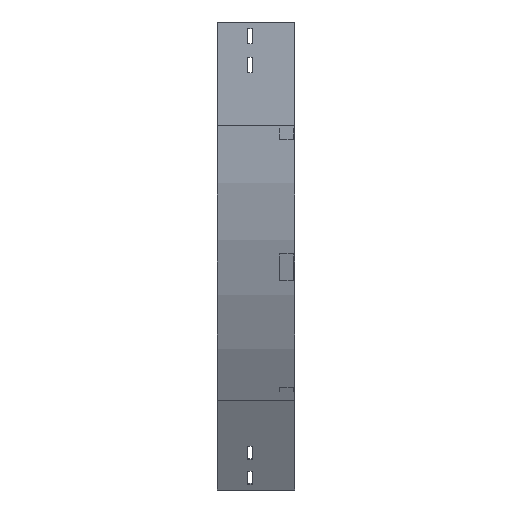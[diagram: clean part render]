
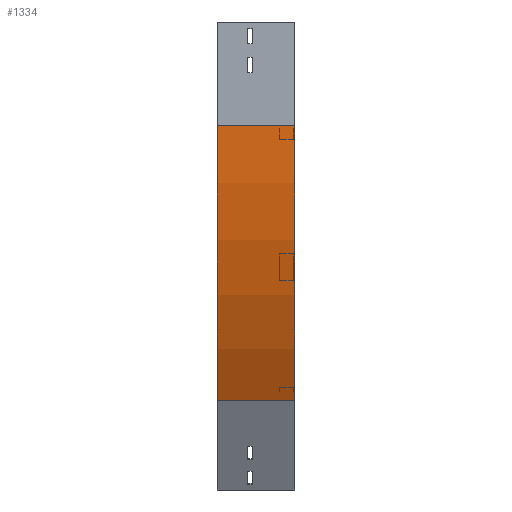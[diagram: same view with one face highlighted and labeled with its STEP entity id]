
A CAD part, left-side view. The second image highlights one B-rep face of the part: STEP entity #1334.
In plain terms, the highlighted cylindrical face has radius 800 mm (diameter 1600 mm), a partial arc.
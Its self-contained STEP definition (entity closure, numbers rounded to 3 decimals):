
#116 = VERTEX_POINT ( 'NONE', #305 ) ;
#305 = CARTESIAN_POINT ( 'NONE',  ( 0., 112.5, -150. ) ) ;
#317 = DIRECTION ( 'NONE',  ( 0., -1., 0. ) ) ;
#443 = CARTESIAN_POINT ( 'NONE',  ( 107.18, 0., -550. ) ) ;
#500 = CARTESIAN_POINT ( 'NONE',  ( 800., 0., -150. ) ) ;
#598 = CARTESIAN_POINT ( 'NONE',  ( 107.18, 112.5, -550. ) ) ;
#640 = EDGE_CURVE ( 'NONE', #2144, #3160, #1563, .T. ) ;
#864 = DIRECTION ( 'NONE',  ( -1., 0., 0. ) ) ;
#915 = EDGE_LOOP ( 'NONE', ( #3555, #2905, #1195, #2884 ) ) ;
#1195 = ORIENTED_EDGE ( 'NONE', *, *, #3210, .T. ) ;
#1277 = AXIS2_PLACEMENT_3D ( 'NONE', #2059, #3786, #864 ) ;
#1334 = ADVANCED_FACE ( 'NONE', ( #3203 ), #3185, .T. ) ;
#1469 = VERTEX_POINT ( 'NONE', #2030 ) ;
#1485 = VECTOR ( 'NONE', #317, 1000. ) ;
#1555 = AXIS2_PLACEMENT_3D ( 'NONE', #500, #1699, #2653 ) ;
#1563 = LINE ( 'NONE', #443, #2327 ) ;
#1632 = CARTESIAN_POINT ( 'NONE',  ( 107.18, 0., -550. ) ) ;
#1699 = DIRECTION ( 'NONE',  ( 0., -1., 0. ) ) ;
#1787 = CIRCLE ( 'NONE', #3580, 800. ) ;
#1808 = LINE ( 'NONE', #2999, #1485 ) ;
#2030 = CARTESIAN_POINT ( 'NONE',  ( 0., 0., -150. ) ) ;
#2059 = CARTESIAN_POINT ( 'NONE',  ( 800., 0., -150. ) ) ;
#2144 = VERTEX_POINT ( 'NONE', #598 ) ;
#2170 = DIRECTION ( 'NONE',  ( 0., -1., 0. ) ) ;
#2213 = DIRECTION ( 'NONE',  ( 0., -1., 0. ) ) ;
#2327 = VECTOR ( 'NONE', #2170, 1000. ) ;
#2600 = CIRCLE ( 'NONE', #1277, 800. ) ;
#2653 = DIRECTION ( 'NONE',  ( 0., 0., -1. ) ) ;
#2884 = ORIENTED_EDGE ( 'NONE', *, *, #640, .T. ) ;
#2905 = ORIENTED_EDGE ( 'NONE', *, *, #3119, .F. ) ;
#2999 = CARTESIAN_POINT ( 'NONE',  ( 0., 0., -150. ) ) ;
#3119 = EDGE_CURVE ( 'NONE', #116, #1469, #1808, .T. ) ;
#3160 = VERTEX_POINT ( 'NONE', #1632 ) ;
#3178 = CARTESIAN_POINT ( 'NONE',  ( 800., 112.5, -150. ) ) ;
#3185 = CYLINDRICAL_SURFACE ( 'NONE', #1555, 800. ) ;
#3203 = FACE_OUTER_BOUND ( 'NONE', #915, .T. ) ;
#3210 = EDGE_CURVE ( 'NONE', #116, #2144, #1787, .T. ) ;
#3378 = EDGE_CURVE ( 'NONE', #1469, #3160, #2600, .T. ) ;
#3397 = DIRECTION ( 'NONE',  ( -1., 0., 0. ) ) ;
#3555 = ORIENTED_EDGE ( 'NONE', *, *, #3378, .F. ) ;
#3580 = AXIS2_PLACEMENT_3D ( 'NONE', #3178, #2213, #3397 ) ;
#3786 = DIRECTION ( 'NONE',  ( 0., -1., 0. ) ) ;
